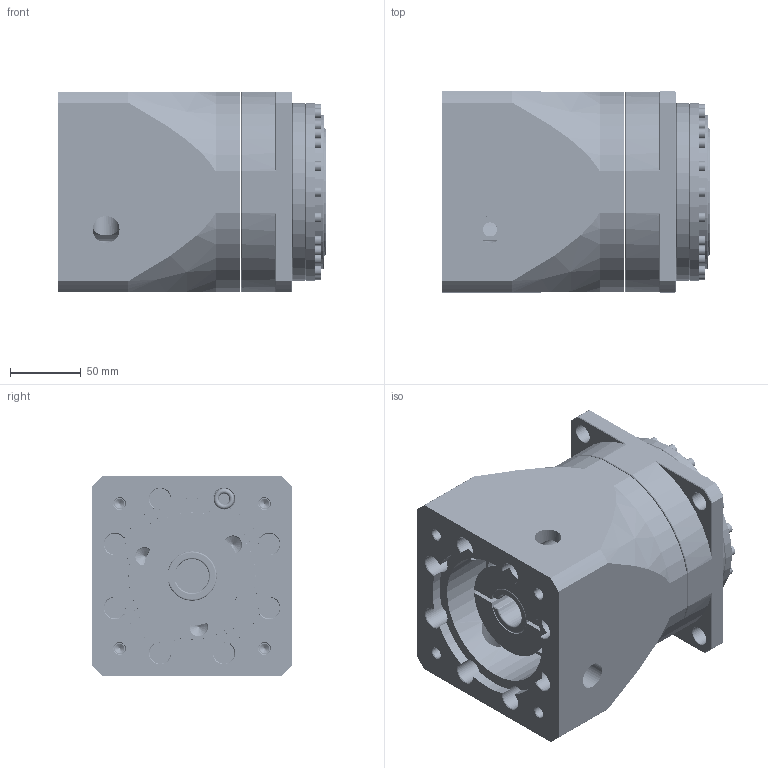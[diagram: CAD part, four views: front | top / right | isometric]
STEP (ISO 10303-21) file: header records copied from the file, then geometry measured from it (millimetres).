
FILE_DESCRIPTION (( 'STEP AP203' ), '1' );
FILE_NAME ('GNDU150L1-24-110-145-M8(20170208).STEP', '2017-02-08T05:42:56', ( 'asus' ), ( '' ), 'SwSTEP 2.0', 'SolidWorks 2012', '' );
FILE_SCHEMA (( 'CONFIG_CONTROL_DESIGN' ));
Products named in the file (1): GNDU150L1-24-110-145-M8(20170208)
Bounding box: 189.5 x 142 x 142 mm (x, y, z)
Volume: 2013694.3 mm3; surface area: 401471.1 mm2
Topology: 34 solids, 34 shells, 3980 faces, 8397 edges, 4557 vertices
Faces by surface type: cone 2975, cylinder 563, plane 390, torus 44, bspline 8
Entity records: 106005 total; most frequent: DIRECTION 20273, CARTESIAN_POINT 18884, ORIENTED_EDGE 16686, EDGE_CURVE 8343, AXIS2_PLACEMENT_3D 8097, VERTEX_POINT 4557, EDGE_LOOP 4322, CIRCLE 4124
